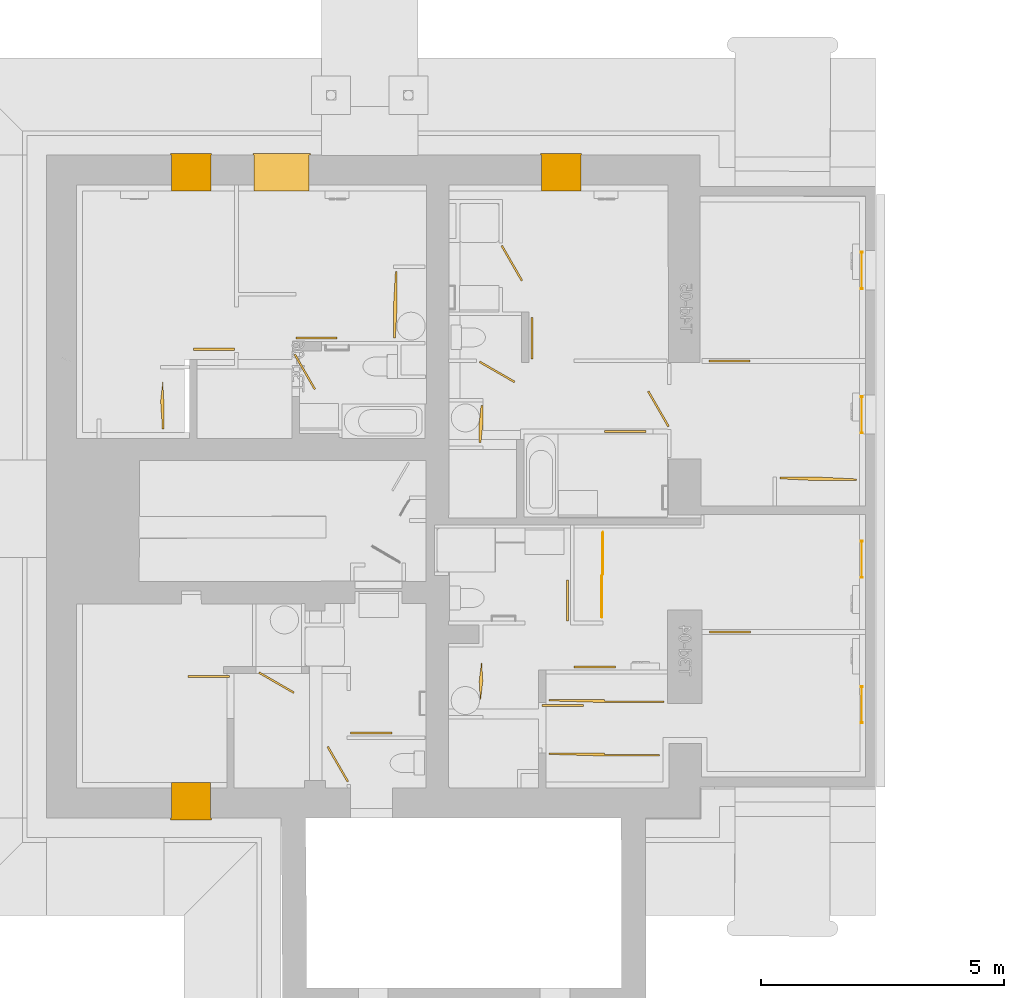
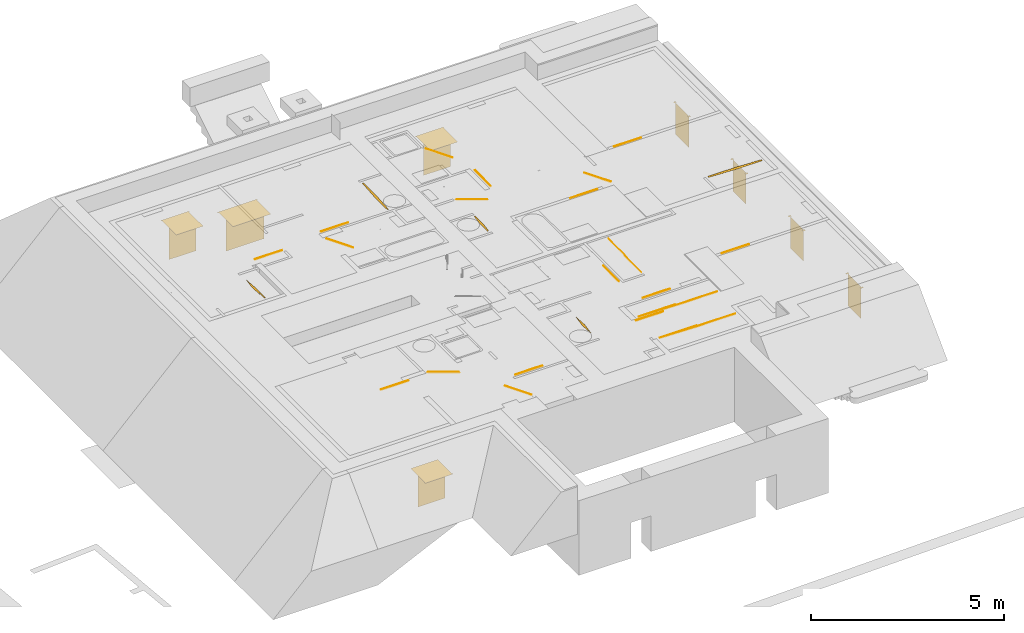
# Not in any storey, part 2 of 22: 25 doors, 8 windows.
"""IFC4 model written with IfcOpenShell, lengths in metres."""

import ifcopenshell
import ifcopenshell.guid

model = None  # the IFC model being written
_history = None  # IfcOwnerHistory: only IFC2X3 demands one
_inside = {}  # id of a spatial element -> (the spatial element, [elements in it])
_under = {}  # id of a project, library or spatial element -> (it, [spatial elements below it])
_declared = {}  # id of a project -> (the project, [libraries it declares])
_typed = {}  # id of a type object -> (the type object, [elements of that type])
_made_of = {}  # id of a material, layer set ... -> (it, [elements and type objects made of it])


def new_model(schema):
    """Start an empty IFC model of exactly this schema.

    Asked for "IFC4X3", IfcOpenShell would pick the latest addendum, in which some entities
    have other attributes; the version numbers below select the first issue.
    IFC2X3 requires an IfcOwnerHistory on every rooted entity: one is made here for all.
    """
    global model, _history
    if schema == "IFC4X3":
        model = ifcopenshell.file(schema_version=(4, 3, 0, 0))
    else:
        model = ifcopenshell.file(schema=schema)
    _inside.clear()
    _under.clear()
    _declared.clear()
    _typed.clear()
    _made_of.clear()
    _history = None
    if model.schema == "IFC2X3":
        org = make("IfcOrganization", Name="unknown")
        user = make(
            "IfcPersonAndOrganization",
            ThePerson=make("IfcPerson", FamilyName="unknown"),
            TheOrganization=org,
        )
        app = make(
            "IfcApplication",
            ApplicationDeveloper=org,
            Version="unknown",
            ApplicationFullName="unknown",
            ApplicationIdentifier="unknown",
        )
        _history = make(
            "IfcOwnerHistory",
            OwningUser=user,
            OwningApplication=app,
            ChangeAction="ADDED",
            CreationDate=0,
        )
    return model


def make(cls, **values):
    """One entity of the class cls with the attributes given. An attribute that is None is left unset."""
    return model.create_entity(
        cls, **{name: value for name, value in values.items() if value is not None}
    )


def rooted(cls, **values):
    """An entity with a GlobalId (a new one), such as an element, a storey or a relation."""
    return make(cls, GlobalId=ifcopenshell.guid.new(), OwnerHistory=_history, **values)


def si_unit(unit_type, name, prefix=None):
    """IfcSIUnit, for example si_unit("LENGTHUNIT", "METRE", prefix="MILLI")."""
    return make("IfcSIUnit", UnitType=unit_type, Prefix=prefix, Name=name)


def assignment(units):
    """IfcUnitAssignment: the units of a project."""
    return None if units is None else make("IfcUnitAssignment", Units=units)


def point(xyz):
    """IfcCartesianPoint."""
    return None if xyz is None else make("IfcCartesianPoint", Coordinates=xyz)


def direction(xyz):
    """IfcDirection."""
    return None if xyz is None else make("IfcDirection", DirectionRatios=xyz)


def frame(location, z_axis=None, x_axis=None):
    """IfcAxis2Placement3D, a coordinate frame: its origin and axes. An axis left out is left unset."""
    return make(
        "IfcAxis2Placement3D",
        Location=point(location),
        Axis=direction(z_axis),
        RefDirection=direction(x_axis),
    )


def origin_with_axes():
    """The frame at (0, 0, 0) with the z axis (0, 0, 1) and the x axis (1, 0, 0) written out."""
    return frame((0.0, 0.0, 0.0), z_axis=(0.0, 0.0, 1.0), x_axis=(1.0, 0.0, 0.0))


def place(relative_to, where):
    """IfcLocalPlacement: puts the frame where relative to a parent placement (None: the world)."""
    return make(
        "IfcLocalPlacement", PlacementRelTo=relative_to, RelativePlacement=where
    )


def context(
    kind, dimensions, precision=None, world=None, true_north=None, identifier=None
):
    """IfcGeometricRepresentationContext, for example the 3D "Model" context."""
    return make(
        "IfcGeometricRepresentationContext",
        ContextIdentifier=identifier,
        ContextType=kind,
        CoordinateSpaceDimension=dimensions,
        Precision=precision,
        WorldCoordinateSystem=world,
        TrueNorth=true_north,
    )


def subcontext(parent, identifier, kind, view, scale=None):
    """IfcGeometricRepresentationSubContext, for example "Body" below "Model"."""
    return make(
        "IfcGeometricRepresentationSubContext",
        ContextIdentifier=identifier,
        ContextType=kind,
        ParentContext=parent,
        TargetScale=scale,
        TargetView=view,
    )


def project(units=None, contexts=None):
    """IfcProject with its units and contexts."""
    return rooted(
        "IfcProject",
        Name="project",
        RepresentationContexts=contexts,
        UnitsInContext=assignment(units),
    )


def faces_of(points, faces, orient=None, outer=None):
    """IfcFace entities. A face is a list of loops; a loop is a list of indices into points, from 0.

    orient and outer hold one flag for each loop. By default every Orientation is true, the
    first loop of a face is its IfcFaceOuterBound and the others are IfcFaceBound.
    """
    made = []
    for i, loops in enumerate(faces):
        bounds = []
        for j, loop in enumerate(loops):
            is_outer = j == 0 if outer is None else outer[i][j]
            bounds.append(
                make(
                    "IfcFaceOuterBound" if is_outer else "IfcFaceBound",
                    Bound=make("IfcPolyLoop", Polygon=[points[k] for k in loop]),
                    Orientation=True if orient is None else orient[i][j],
                )
            )
        made.append(make("IfcFace", Bounds=bounds))
    return made


def faceted_brep(points, faces, orient=None, outer=None, voids=None):
    """IfcFacetedBrep: a solid bounded by flat faces; with voids (closed shells), ...WithVoids."""
    shared = [point(p) for p in points]
    hull = make("IfcClosedShell", CfsFaces=faces_of(shared, faces, orient, outer))
    if voids is None:
        return make("IfcFacetedBrep", Outer=hull)
    return make(
        "IfcFacetedBrepWithVoids",
        Outer=hull,
        Voids=[
            make(cls, CfsFaces=faces_of(shared, fs, o, b)) for cls, fs, o, b in voids
        ],
    )


def shape(context_of_items, identifier, shape_type, items):
    """IfcShapeRepresentation: the items that make up one representation, for example the "Body"."""
    return make(
        "IfcShapeRepresentation",
        ContextOfItems=context_of_items,
        RepresentationIdentifier=identifier,
        RepresentationType=shape_type,
        Items=items,
    )


def made_of(thing, what):
    """Note that an element or type object is made of a material, layer set ...; save() writes the relation."""
    if what is not None:
        _made_of.setdefault(what.id(), (what, []))[1].append(thing)
    return thing


def element(
    cls,
    number,
    at=None,
    inside=None,
    cuts=None,
    type_object=None,
    material=None,
    context=None,
    identifier="Body",
    shape_type=None,
    held_by="IfcProductDefinitionShape",
    body=None,
    shapes=None,
    **own,
):
    """One element of the class cls, such as IfcWall. Its Tag is "e" and its number.

    at: its placement. inside: the storey or other place that contains it. cuts: it is an
    opening in that element (IfcRelVoidsElement). A single representation is given by context,
    identifier, shape_type and body (its items); several are given by shapes. held_by: the class
    of the entity that holds the representations. save() writes the other relations.
    """
    e = rooted(cls, Tag="e%d" % number, ObjectPlacement=at, **own)
    if body is not None:
        shapes = [shape(context, identifier, shape_type, body)]
    if shapes is not None:
        e.Representation = make(held_by, Representations=shapes)
    if inside is not None:
        _inside.setdefault(inside.id(), (inside, []))[1].append(e)
    if cuts is not None:
        rooted(
            "IfcRelVoidsElement", RelatingBuildingElement=cuts, RelatedOpeningElement=e
        )
    if type_object is not None:
        _typed.setdefault(type_object.id(), (type_object, []))[1].append(e)
    return made_of(e, material)


def aggregate(whole, parts):
    """IfcRelAggregates: a whole, such as a stair, and the parts it consists of."""
    return rooted("IfcRelAggregates", RelatingObject=whole, RelatedObjects=parts)


def save(model, path):
    """Write the relations noted so far, then the file.

    IfcRelAggregates (storeys below a building ...), IfcRelContainedInSpatialStructure (elements
    in a storey), IfcRelDefinesByType, IfcRelAssociatesMaterial and IfcRelDeclares: one each for
    every whole, place, type object, material and project.
    """
    for whole, parts in _under.values():
        aggregate(whole, parts)
    for where, things in _inside.values():
        rooted(
            "IfcRelContainedInSpatialStructure",
            RelatedElements=things,
            RelatingStructure=where,
        )
    for kind, things in _typed.values():
        rooted("IfcRelDefinesByType", RelatedObjects=things, RelatingType=kind)
    for what, things in _made_of.values():
        rooted("IfcRelAssociatesMaterial", RelatedObjects=things, RelatingMaterial=what)
    for by, libraries in _declared.values():
        rooted("IfcRelDeclares", RelatingContext=by, RelatedDefinitions=libraries)
    model.write(path)


model = new_model("IFC4")

# Units and contexts
model_context = context("Model", 3, precision=1e-05, world=origin_with_axes(), true_north=direction((1.0, 0.0)))
body_context = subcontext(model_context, "Body", "Model", "MODEL_VIEW")
ifc_project = project(units=[si_unit("LENGTHUNIT", "METRE"), si_unit("AREAUNIT", "SQUARE_METRE"), si_unit("VOLUMEUNIT", "CUBIC_METRE"), si_unit("MASSUNIT", "GRAM", prefix="KILO"), si_unit("TIMEUNIT", "SECOND"), si_unit("PLANEANGLEUNIT", "RADIAN"), si_unit("SOLIDANGLEUNIT", "STERADIAN")], contexts=[model_context])

# Doors
placement = place(None, origin_with_axes())
element("IfcDoor", 1, at=placement, Name="PP83", context=body_context, shape_type="Brep", body=[
    faceted_brep([(144.052168, 19.443176, 2.31), (144.052168, 19.400846, 2.31), (143.205568, 19.400846, 2.31), (143.205568, 19.443176, 2.31)], [[[0, 1, 2, 3]]]),
])
element("IfcDoor", 2, at=placement, Name="PP83", context=body_context, shape_type="Brep", body=[
    faceted_brep([(151.332921, 18.842092, 2.31), (151.332921, 18.799761, 2.31), (150.486322, 18.799761, 2.31), (150.486322, 18.842092, 2.31)], [[[0, 1, 2, 3]]]),
])

# Window
element("IfcWindow", 3, at=placement, Name="Men Ext 1", context=body_context, shape_type="Brep", body=[
    faceted_brep([(157.061585, 24.463511, 1.27), (157.061585, 25.149257, 1.27), (157.061585, 25.149257, 0.27), (157.061585, 24.463511, 0.27)], [[[0, 1, 2, 3]]]),
    faceted_brep([(157.061585, 25.149257, 1.27), (157.019254, 25.149257, 1.27), (157.019254, 25.208519, 1.27), (157.095447, 25.208519, 1.27), (157.095447, 25.149257, 1.27), (157.061585, 24.463511, 1.27), (157.095447, 24.463511, 1.27), (157.095447, 24.40425, 1.27), (157.019254, 24.40425, 1.27), (157.019254, 24.463511, 1.27)], [[[0, 1, 2, 3, 4]], [[5, 6, 7, 8, 9]]]),
])

# Doors
element("IfcDoor", 4, at=placement, Name="PP83-2", context=body_context, shape_type="Brep", body=[
    faceted_brep([(146.058607, 17.970094, 2.31), (146.092472, 17.987025, 2.31), (146.507305, 17.267416, 2.31), (146.473441, 17.250484, 2.31)], [[[0, 1, 2, 3]]]),
])
element("IfcDoor", 5, at=placement, Name="PP83", context=body_context, shape_type="Brep", body=[
    faceted_brep([(151.028146, 20.560687, 2.31), (150.985816, 20.560687, 2.31), (150.985816, 21.407287, 2.31), (151.028146, 21.407287, 2.31)], [[[0, 1, 2, 3]]]),
])
element("IfcDoor", 6, at=placement, Name="Scrigno 80", context=body_context, shape_type="Brep", body=[
    faceted_brep([(152.618181, 24.479179, 2.31), (152.618181, 24.436849, 2.31), (151.771581, 24.436849, 2.31), (151.771581, 24.479179, 2.31)], [[[0, 1, 2, 3]]]),
])
element("IfcDoor", 7, at=placement, Name="PP83-2", context=body_context, shape_type="Brep", body=[
    faceted_brep([(144.653252, 19.485506, 2.31), (144.670185, 19.519369, 2.31), (145.389794, 19.104536, 2.31), (145.372863, 19.070672, 2.31)], [[[0, 1, 2, 3]]]),
])
element("IfcDoor", 8, at=placement, Name="PP83", context=body_context, shape_type="Brep", body=[
    faceted_brep([(150.257741, 26.800125, 2.31), (150.300071, 26.800125, 2.31), (150.300071, 25.953526, 2.31), (150.257741, 25.953526, 2.31)], [[[0, 1, 2, 3]]]),
])
element("IfcDoor", 9, at=placement, Name="PP83-2", context=body_context, shape_type="Brep", body=[
    faceted_brep([(145.830026, 25.335507, 2.31), (145.796161, 25.318575, 2.31), (145.381328, 26.038185, 2.31), (145.415192, 26.055117, 2.31)], [[[0, 1, 2, 3]]]),
])
element("IfcDoor", 10, at=placement, Name="PP83", context=body_context, shape_type="Brep", body=[
    faceted_brep([(151.146668, 19.595565, 2.31), (151.146668, 19.637895, 2.31), (151.993268, 19.637895, 2.31), (151.993268, 19.595565, 2.31)], [[[0, 1, 2, 3]]]),
])
element("IfcDoor", 11, at=placement, Name="PP83", context=body_context, shape_type="Brep", body=[
    faceted_brep([(145.423658, 26.359893, 2.31), (145.423658, 26.402224, 2.31), (146.270257, 26.402224, 2.31), (146.270257, 26.359893, 2.31)], [[[0, 1, 2, 3]]]),
])
element("IfcDoor", 12, at=placement, Name="Scrigno 80", context=body_context, shape_type="Brep", body=[
    faceted_brep([(153.916623, 25.887064, 2.31), (153.916623, 25.929394, 2.31), (154.763223, 25.929394, 2.31), (154.763223, 25.887064, 2.31)], [[[0, 1, 2, 3]]]),
])
element("IfcDoor", 13, at=placement, Name="PP83-2", context=body_context, shape_type="Brep", body=[
    faceted_brep([(150.088421, 27.57053, 2.31), (150.054557, 27.553598, 2.31), (149.639724, 28.273208, 2.31), (149.673587, 28.29014, 2.31)], [[[0, 1, 2, 3]]]),
])
element("IfcDoor", 14, at=placement, Name="PP83", context=body_context, shape_type="Brep", body=[
    faceted_brep([(143.315628, 26.131312, 2.31), (143.315628, 26.173642, 2.31), (144.162228, 26.173642, 2.31), (144.162228, 26.131312, 2.31)], [[[0, 1, 2, 3]]]),
])

# Windows
element("IfcWindow", 15, at=placement, Name="Men Ext 1", context=body_context, shape_type="Brep", body=[
    faceted_brep([(157.061585, 21.491945, 1.27), (157.061585, 22.177691, 1.27), (157.061585, 22.177691, 0.27), (157.061585, 21.491945, 0.27)], [[[0, 1, 2, 3]]]),
    faceted_brep([(157.061585, 22.177691, 1.27), (157.019254, 22.177691, 1.27), (157.019254, 22.236953, 1.27), (157.095447, 22.236953, 1.27), (157.095447, 22.177691, 1.27), (157.061585, 21.491945, 1.27), (157.095447, 21.491945, 1.27), (157.095447, 21.432684, 1.27), (157.019254, 21.432684, 1.27), (157.019254, 21.491945, 1.27)], [[[0, 1, 2, 3, 4]], [[5, 6, 7, 8, 9]]]),
])
element("IfcWindow", 16, at=placement, Name="Men Ext 1", context=body_context, shape_type="Brep", body=[
    faceted_brep([(157.061585, 27.435077, 1.27), (157.061585, 28.120823, 1.27), (157.061585, 28.120823, 0.27), (157.061585, 27.435077, 0.27)], [[[0, 1, 2, 3]]]),
    faceted_brep([(157.061585, 28.120823, 1.27), (157.019254, 28.120823, 1.27), (157.019254, 28.180084, 1.27), (157.095447, 28.180084, 1.27), (157.095447, 28.120823, 1.27), (157.061585, 27.435077, 1.27), (157.095447, 27.435077, 1.27), (157.095447, 27.375815, 1.27), (157.019254, 27.375815, 1.27), (157.019254, 27.435077, 1.27)], [[[0, 1, 2, 3, 4]], [[5, 6, 7, 8, 9]]]),
])

# Doors
element("IfcDoor", 17, at=placement, Name="Scrigno 80", context=body_context, shape_type="Brep", body=[
    faceted_brep([(153.925089, 20.316438, 2.31), (153.925089, 20.358769, 2.31), (154.771688, 20.358769, 2.31), (154.771688, 20.316438, 2.31)], [[[0, 1, 2, 3]]]),
])
element("IfcDoor", 18, at=placement, Name="PP83-2", context=body_context, shape_type="Brep", body=[
    faceted_brep([(149.191026, 25.877333, 2.31), (149.207958, 25.911197, 2.31), (149.927567, 25.496364, 2.31), (149.910636, 25.462499, 2.31)], [[[0, 1, 2, 3]]]),
])
element("IfcDoor", 19, at=placement, Name="PP83", context=body_context, shape_type="Brep", body=[
    faceted_brep([(146.549634, 18.241005, 2.31), (146.549634, 18.283335, 2.31), (147.396234, 18.283335, 2.31), (147.396234, 18.241005, 2.31)], [[[0, 1, 2, 3]]]),
])

# Window
element("IfcWindow", 20, at=placement, Name="Men Ext 1", context=body_context, shape_type="Brep", body=[
    faceted_brep([(157.061585, 18.503451, 1.27), (157.061585, 19.189196, 1.27), (157.061585, 19.189196, 0.27), (157.061585, 18.503451, 0.27)], [[[0, 1, 2, 3]]]),
    faceted_brep([(157.061585, 19.189196, 1.27), (157.019254, 19.189196, 1.27), (157.019254, 19.248458, 1.27), (157.095447, 19.248458, 1.27), (157.095447, 19.189196, 1.27), (157.061585, 18.503451, 1.27), (157.095447, 18.503451, 1.27), (157.095447, 18.444189, 1.27), (157.019254, 18.444189, 1.27), (157.019254, 18.503451, 1.27)], [[[0, 1, 2, 3, 4]], [[5, 6, 7, 8, 9]]]),
])

# Doors
element("IfcDoor", 21, at=placement, Name="PP83-2", context=body_context, shape_type="Brep", body=[
    faceted_brep([(152.653617, 25.276247, 2.31), (152.687482, 25.293178, 2.31), (153.102315, 24.573569, 2.31), (153.068451, 24.556637, 2.31)], [[[0, 1, 2, 3]]]),
])
element("IfcDoor", 22, at=placement, Name="P PL 06-2", context=body_context, shape_type="Brep", body=[
    faceted_brep([(147.430099, 27.065744, 2.31), (147.468196, 27.748317, 2.31), (147.506293, 27.816044, 2.31), (147.430099, 27.816044, 2.31), (147.430099, 27.748317, 2.31), (147.506293, 27.748317, 2.31), (147.506293, 27.065744, 2.31), (147.468196, 27.065744, 2.31), (147.468196, 26.383171, 2.31), (147.430099, 26.315444, 2.31), (147.506293, 26.315444, 2.31), (147.506293, 26.383171, 2.31), (147.430099, 26.383171, 2.31)], [[[0, 1, 2, 3, 4, 5, 6, 7, 8, 9, 10, 11, 12]], [[6, 8, 9, 10, 11, 12, 0, 7, 1, 2, 3, 4, 5]]]),
])
element("IfcDoor", 23, at=placement, Name="P PL 06-1", context=body_context, shape_type="Brep", body=[
    faceted_brep([(142.67221, 25.091681, 2.31), (142.706073, 25.091681, 2.31), (142.706073, 24.509213, 2.31), (142.67221, 24.509213, 2.31), (142.638346, 24.509213, 2.31), (142.638346, 24.441483, 2.31), (142.706073, 24.441483, 2.31), (142.638346, 25.091681, 2.31), (142.706073, 25.674149, 2.31), (142.706073, 25.741876, 2.31), (142.638346, 25.741876, 2.31), (142.638346, 25.674149, 2.31), (142.67221, 25.674149, 2.31)], [[[0, 1, 2, 3]], [[1, 4, 5, 6, 2, 3, 0, 7, 8, 9, 10, 11, 12]], [[7, 8, 9, 10, 11, 12, 0, 1, 4, 5, 6, 2, 3]]]),
])
element("IfcDoor", 24, at=placement, Name="P PL 04-3", context=body_context, shape_type="Brep", body=[
    faceted_brep([(151.764688, 18.884421, 2.31), (151.764688, 18.918285, 2.31), (152.992258, 18.918285, 2.31), (152.992258, 18.884421, 2.31), (150.630245, 18.918285, 2.31), (150.562517, 18.952148, 2.31), (150.562517, 18.884421, 2.31), (150.630245, 18.884421, 2.31), (150.630245, 18.952148, 2.31), (151.764688, 18.952148, 2.31), (153.068451, 18.884421, 2.31), (153.068451, 18.952148, 2.31), (152.992258, 18.952148, 2.31)], [[[0, 1, 2, 3]], [[0, 4, 5, 6, 7, 8, 9, 1, 2, 10, 11, 12, 3]]]),
])

# Window
element("IfcWindow", 25, at=placement, Name="Men Ext 2", context=body_context, shape_type="Brep", body=[
    faceted_brep([(143.66273, 16.873747, 0.27), (143.66273, 16.873747, 1.27), (142.858461, 16.873747, 1.27), (142.858461, 16.873747, 0.27)], [[[0, 1, 2, 3]]]),
    faceted_brep([(143.66273, 16.873747, 1.27), (143.66273, 16.505476, 1.27), (143.68813, 16.505476, 1.27), (143.68813, 16.471612, 1.27), (142.84153, 16.471612, 1.27), (142.84153, 16.505476, 1.27), (142.858461, 16.505476, 1.27), (142.858461, 16.873747, 1.27), (143.66273, 17.123494, 1.27), (142.858461, 17.242017, 1.27), (143.66273, 17.242017, 1.27)], [[[0, 1, 2, 3, 4, 5, 6, 7]], [[8, 0, 7, 9, 10]]]),
])

# Door
element("IfcDoor", 26, at=placement, Name="P PL 05-2", context=body_context, shape_type="Brep", body=[
    faceted_brep([(156.164512, 23.523785, 2.31), (156.951497, 23.485688, 2.31), (157.019224, 23.447565, 2.31), (157.019224, 23.523759, 2.31), (156.951497, 23.523759, 2.31), (156.951497, 23.447565, 2.31), (156.164512, 23.447591, 2.31), (156.164512, 23.485688, 2.31), (155.377526, 23.485688, 2.31), (155.309799, 23.523785, 2.31), (155.309799, 23.447591, 2.31), (155.377526, 23.447591, 2.31), (155.377526, 23.523785, 2.31)], [[[0, 1, 2, 3, 4, 5, 6, 7, 8, 9, 10, 11, 12]], [[6, 8, 9, 10, 11, 12, 0, 7, 1, 2, 3, 4, 5]]]),
])

# Windows
element("IfcWindow", 27, at=placement, Name="Men Ext 2", context=body_context, shape_type="Brep", body=[
    faceted_brep([(142.866927, 29.780156, 0.27), (142.866927, 29.780156, 1.27), (143.671196, 29.780156, 1.27), (143.671196, 29.780156, 0.27)], [[[0, 1, 2, 3]]]),
    faceted_brep([(142.866927, 29.780156, 1.27), (142.866927, 30.148426, 1.27), (142.841528, 30.148426, 1.27), (142.841528, 30.182291, 1.27), (143.688127, 30.182291, 1.27), (143.688127, 30.148426, 1.27), (143.671196, 30.148426, 1.27), (143.671196, 29.780156, 1.27), (142.866927, 29.530409, 1.27), (143.671196, 29.411886, 1.27), (142.866927, 29.411886, 1.27)], [[[0, 1, 2, 3, 4, 5, 6, 7]], [[8, 0, 7, 9, 10]]]),
])
element("IfcWindow", 28, at=placement, Name="Men Ext 3", context=body_context, shape_type="Brep", body=[
    faceted_brep([(145.69457, 29.775921, 0.942), (145.69457, 29.775921, -0.058), (144.560128, 29.775921, -0.058), (144.560128, 29.775921, 0.942)], [[[0, 1, 2, 3]]]),
    faceted_brep([(145.69457, 30.144192, 0.942), (145.69457, 29.775921, 0.942), (144.560128, 29.775921, 0.942), (144.560128, 30.144192, 0.942), (144.534729, 30.144192, 0.942), (144.534729, 30.178057, 0.942), (145.719968, 30.178057, 0.942), (145.719968, 30.144192, 0.942), (144.560128, 29.40765, 0.942), (145.69457, 29.40765, 0.942)], [[[0, 1, 2, 3, 4, 5, 6, 7]], [[8, 2, 1, 9]]]),
])
element("IfcWindow", 29, at=placement, Name="Men Ext 2", context=body_context, shape_type="Brep", body=[
    faceted_brep([(150.477856, 29.775922, 0.27), (150.477856, 29.775922, 1.27), (151.282125, 29.775922, 1.27), (151.282125, 29.775922, 0.27)], [[[0, 1, 2, 3]]]),
    faceted_brep([(150.477856, 29.775922, 1.27), (150.477856, 30.144193, 1.27), (150.452457, 30.144193, 1.27), (150.452457, 30.178057, 1.27), (151.299057, 30.178057, 1.27), (151.299057, 30.144193, 1.27), (151.282125, 30.144193, 1.27), (151.282125, 29.775922, 1.27), (150.477856, 29.526175, 1.27), (151.282125, 29.407652, 1.27), (150.477856, 29.407652, 1.27)], [[[0, 1, 2, 3, 4, 5, 6, 7]], [[8, 0, 7, 9, 10]]]),
])

# Doors
element("IfcDoor", 30, at=placement, Name="P PL 05-1", context=body_context, shape_type="Brep", body=[
    faceted_brep([(149.191026, 24.614809, 2.31), (149.229123, 24.996869, 2.31), (149.26722, 25.064596, 2.31), (149.191026, 25.064596, 2.31), (149.191026, 24.996869, 2.31), (149.26722, 24.996869, 2.31), (149.26722, 24.614809, 2.31), (149.229123, 24.614809, 2.31), (149.229123, 24.232749, 2.31), (149.191026, 24.165022, 2.31), (149.26722, 24.165022, 2.31), (149.26722, 24.232749, 2.31), (149.191026, 24.232749, 2.31)], [[[0, 1, 2, 3, 4, 5, 6, 7, 8, 9, 10, 11, 12]], [[6, 8, 9, 10, 11, 12, 0, 7, 1, 2, 3, 4, 5]]]),
])
element("IfcDoor", 31, at=placement, Name="P PL 04-2", context=body_context, shape_type="Brep", body=[
    faceted_brep([(151.764688, 17.783841, 2.31), (151.764688, 17.817705, 2.31), (152.899131, 17.817705, 2.31), (152.899131, 17.783841, 2.31), (150.630245, 17.817705, 2.31), (150.562517, 17.851569, 2.31), (150.562517, 17.783841, 2.31), (150.630245, 17.783841, 2.31), (150.630245, 17.851569, 2.31), (151.764688, 17.851569, 2.31), (152.975324, 17.783841, 2.31), (152.975324, 17.851569, 2.31), (152.899131, 17.851569, 2.31)], [[[0, 1, 2, 3]], [[0, 4, 5, 6, 7, 8, 9, 1, 2, 10, 11, 12, 3]]]),
])
element("IfcDoor", 32, at=placement, Name="p PL 04-1", context=body_context, shape_type="Brep", body=[
    faceted_brep([(149.191026, 19.323553, 2.31), (149.26722, 19.959603, 2.31), (149.26722, 20.02733, 2.31), (149.191026, 20.02733, 2.31), (149.191026, 19.959603, 2.31), (149.229123, 19.959603, 2.31), (149.229123, 19.323553, 2.31), (149.26722, 19.323553, 2.31), (149.191026, 18.687504, 2.31), (149.191026, 18.619776, 2.31), (149.26722, 18.619776, 2.31), (149.26722, 18.687504, 2.31), (149.229123, 18.687504, 2.31)], [[[0, 1, 2, 3, 4, 5, 6, 7, 8, 9, 10, 11, 12]], [[7, 8, 9, 10, 11, 12, 6, 0, 1, 2, 3, 4, 5]]]),
])
element("IfcDoor", 33, at=placement, Name="Undefined", context=body_context, shape_type="Brep", body=[
    faceted_brep([(151.705425, 21.517345, 2.31), (151.722358, 21.517345, 2.31), (151.722358, 20.628415, 2.31), (151.705425, 20.628415, 2.31), (151.73929, 21.517345, 2.31), (151.722358, 22.397809, 2.31), (151.73929, 22.397809, 2.31)], [[[0, 1, 2, 3]], [[4, 1, 5, 6]]]),
])

save(model, "model.ifc")
